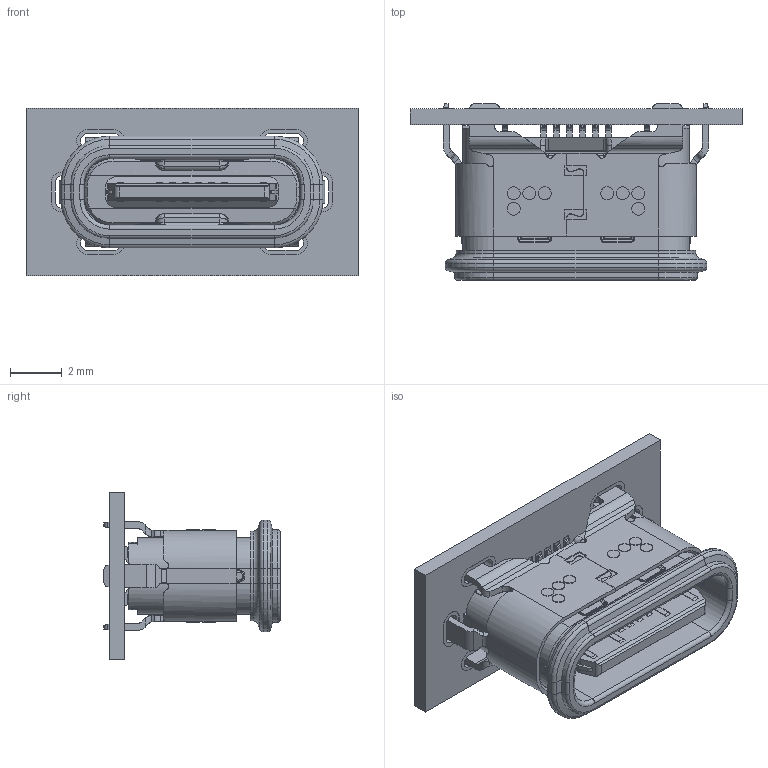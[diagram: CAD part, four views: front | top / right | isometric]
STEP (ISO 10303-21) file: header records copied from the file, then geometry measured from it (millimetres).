
FILE_DESCRIPTION(('Creo Elements/Direct Modeling STEP Export'),'2;1');
FILE_NAME('TYPE_C16P-直立式-3D.stp','2026-01-12T 9:58:39',(''),(''),'PTC Creo Elements/Direct Modeling STEP processor for AP214 (Solid Model)','PTC Creo Elements/Direct Modeling 19.0 09-May-2014 (C) Parametric Technology GmbH','');
FILE_SCHEMA(('AUTOMOTIVE_DESIGN { 1 0 10303 214 1 1 1 1 }'));
Length unit declared in the file: millimetre
Products named in the file (4): TYPE-C-16P-----; PCB-16P
Assembly tree (2 placements, depth 2):
  TYPE-C-16P-----
    TYPE-C-16P-----
  PCB-16P
    PCB-16P
Bounding box: 12.8 x 6.8 x 6.45 mm (x, y, z)
Volume: 145.5 mm3; surface area: 773.7 mm2
Topology: 3 solids, 3 shells, 1444 faces, 3814 edges, 2423 vertices
Faces by surface type: plane 807, cylinder 444, torus 96, cone 51, sphere 24, bspline 22
Entity records: 46155 total; most frequent: CARTESIAN_POINT 10761, ORIENTED_EDGE 7580, DIRECTION 7034, EDGE_CURVE 3790, VERTEX_POINT 2415, VECTOR 2378, LINE 2378, AXIS2_PLACEMENT_3D 2328
